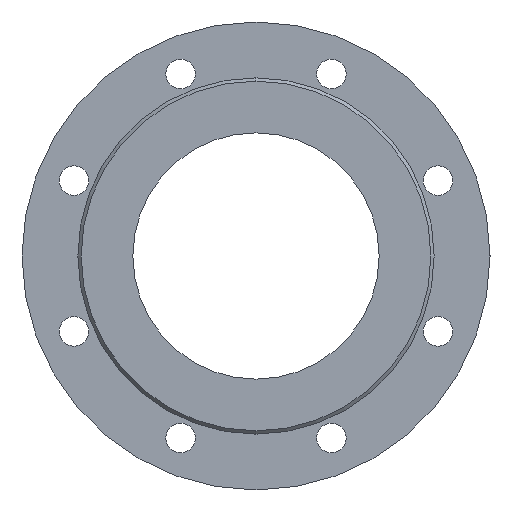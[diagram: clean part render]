
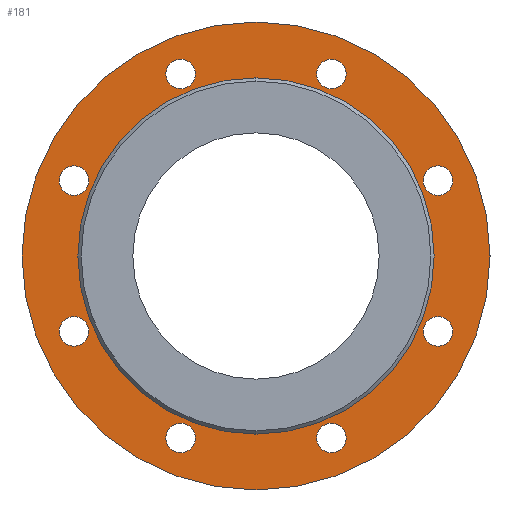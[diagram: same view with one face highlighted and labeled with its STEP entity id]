
A CAD part, left-side view. The second image highlights one B-rep face of the part: STEP entity #181.
In plain terms, the highlighted planar face has unit normal (-1, 0, 0).
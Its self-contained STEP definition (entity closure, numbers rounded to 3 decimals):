
#181=ADVANCED_FACE('',(#381,#382,#383,#384,#385,#386,#387,#388,#389,#390),#391,.F.);
#381=FACE_BOUND('',#643,.T.);
#382=FACE_BOUND('',#644,.T.);
#383=FACE_BOUND('',#645,.T.);
#384=FACE_BOUND('',#646,.T.);
#385=FACE_BOUND('',#647,.T.);
#386=FACE_BOUND('',#648,.T.);
#387=FACE_BOUND('',#649,.T.);
#388=FACE_BOUND('',#650,.T.);
#389=FACE_BOUND('',#651,.T.);
#390=FACE_OUTER_BOUND('',#652,.T.);
#391=PLANE('',#653);
#643=EDGE_LOOP('',(#1005,#1006));
#644=EDGE_LOOP('',(#1007,#1008));
#645=EDGE_LOOP('',(#1009,#1010));
#646=EDGE_LOOP('',(#1011,#1012));
#647=EDGE_LOOP('',(#1013,#1014));
#648=EDGE_LOOP('',(#1015,#1016));
#649=EDGE_LOOP('',(#1017,#1018));
#650=EDGE_LOOP('',(#1019,#1020));
#651=EDGE_LOOP('',(#1021,#1022));
#652=EDGE_LOOP('',(#1023,#1024));
#653=AXIS2_PLACEMENT_3D('',#1025,#1026,#1027);
#1005=ORIENTED_EDGE('',*,*,#1472,.T.);
#1006=ORIENTED_EDGE('',*,*,#1473,.T.);
#1007=ORIENTED_EDGE('',*,*,#1474,.T.);
#1008=ORIENTED_EDGE('',*,*,#1374,.T.);
#1009=ORIENTED_EDGE('',*,*,#1475,.T.);
#1010=ORIENTED_EDGE('',*,*,#1404,.T.);
#1011=ORIENTED_EDGE('',*,*,#1476,.T.);
#1012=ORIENTED_EDGE('',*,*,#1422,.T.);
#1013=ORIENTED_EDGE('',*,*,#1477,.T.);
#1014=ORIENTED_EDGE('',*,*,#1446,.T.);
#1015=ORIENTED_EDGE('',*,*,#1478,.T.);
#1016=ORIENTED_EDGE('',*,*,#1479,.T.);
#1017=ORIENTED_EDGE('',*,*,#1466,.T.);
#1018=ORIENTED_EDGE('',*,*,#1480,.T.);
#1019=ORIENTED_EDGE('',*,*,#1481,.T.);
#1020=ORIENTED_EDGE('',*,*,#1482,.T.);
#1021=ORIENTED_EDGE('',*,*,#1483,.T.);
#1022=ORIENTED_EDGE('',*,*,#1441,.T.);
#1023=ORIENTED_EDGE('',*,*,#1484,.F.);
#1024=ORIENTED_EDGE('',*,*,#1485,.F.);
#1025=CARTESIAN_POINT('',(2.0,0.0,0.));
#1026=DIRECTION('',(1.0,0.0,0.));
#1027=DIRECTION('',(0.,0.0,-1.0));
#1374=EDGE_CURVE('',#1615,#1613,#1616,.T.);
#1404=EDGE_CURVE('',#1661,#1659,#1662,.T.);
#1422=EDGE_CURVE('',#1691,#1689,#1692,.T.);
#1441=EDGE_CURVE('',#1724,#1722,#1725,.T.);
#1446=EDGE_CURVE('',#1733,#1731,#1734,.T.);
#1466=EDGE_CURVE('',#1761,#1765,#1767,.T.);
#1472=EDGE_CURVE('',#1773,#1774,#1775,.T.);
#1473=EDGE_CURVE('',#1774,#1773,#1776,.T.);
#1474=EDGE_CURVE('',#1613,#1615,#1777,.T.);
#1475=EDGE_CURVE('',#1659,#1661,#1778,.T.);
#1476=EDGE_CURVE('',#1689,#1691,#1779,.T.);
#1477=EDGE_CURVE('',#1731,#1733,#1780,.T.);
#1478=EDGE_CURVE('',#1781,#1782,#1783,.T.);
#1479=EDGE_CURVE('',#1782,#1781,#1784,.T.);
#1480=EDGE_CURVE('',#1765,#1761,#1785,.T.);
#1481=EDGE_CURVE('',#1786,#1787,#1788,.T.);
#1482=EDGE_CURVE('',#1787,#1786,#1789,.T.);
#1483=EDGE_CURVE('',#1722,#1724,#1790,.T.);
#1484=EDGE_CURVE('',#1791,#1792,#1793,.T.);
#1485=EDGE_CURVE('',#1792,#1791,#1794,.T.);
#1613=VERTEX_POINT('',#1946);
#1615=VERTEX_POINT('',#1949);
#1616=CIRCLE('',#1950,9.0);
#1659=VERTEX_POINT('',#2000);
#1661=VERTEX_POINT('',#2003);
#1662=CIRCLE('',#2004,9.0);
#1689=VERTEX_POINT('',#2034);
#1691=VERTEX_POINT('',#2037);
#1692=CIRCLE('',#2038,9.0);
#1722=VERTEX_POINT('',#2075);
#1724=VERTEX_POINT('',#2078);
#1725=CIRCLE('',#2079,9.0);
#1731=VERTEX_POINT('',#2086);
#1733=VERTEX_POINT('',#2089);
#1734=CIRCLE('',#2090,9.0);
#1761=VERTEX_POINT('',#2118);
#1765=VERTEX_POINT('',#2123);
#1767=CIRCLE('',#2126,9.0);
#1773=VERTEX_POINT('',#2132);
#1774=VERTEX_POINT('',#2133);
#1775=CIRCLE('',#2134,75.0);
#1776=CIRCLE('',#2135,75.0);
#1777=CIRCLE('',#2136,9.0);
#1778=CIRCLE('',#2137,9.0);
#1779=CIRCLE('',#2138,9.0);
#1780=CIRCLE('',#2139,9.0);
#1781=VERTEX_POINT('',#2140);
#1782=VERTEX_POINT('',#2141);
#1783=CIRCLE('',#2142,9.0);
#1784=CIRCLE('',#2143,9.0);
#1785=CIRCLE('',#2144,9.0);
#1786=VERTEX_POINT('',#2145);
#1787=VERTEX_POINT('',#2146);
#1788=CIRCLE('',#2147,9.0);
#1789=CIRCLE('',#2148,9.0);
#1790=CIRCLE('',#2149,9.0);
#1791=VERTEX_POINT('',#2150);
#1792=VERTEX_POINT('',#2151);
#1793=CIRCLE('',#2152,142.5);
#1794=CIRCLE('',#2153,142.5);
#1946=CARTESIAN_POINT('',(2.0,110.866,-54.922));
#1949=CARTESIAN_POINT('',(2.0,110.866,-36.922));
#1950=AXIS2_PLACEMENT_3D('',#2317,#2318,#2319);
#2000=CARTESIAN_POINT('',(2.0,45.922,-119.866));
#2003=CARTESIAN_POINT('',(2.,45.922,-101.866));
#2004=AXIS2_PLACEMENT_3D('',#2367,#2368,#2369);
#2034=CARTESIAN_POINT('',(2.0,-110.866,36.922));
#2037=CARTESIAN_POINT('',(2.0,-110.866,54.922));
#2038=AXIS2_PLACEMENT_3D('',#2401,#2402,#2403);
#2075=CARTESIAN_POINT('',(2.0,-45.922,-119.866));
#2078=CARTESIAN_POINT('',(2.,-45.922,-101.866));
#2079=AXIS2_PLACEMENT_3D('',#2430,#2431,#2432);
#2086=CARTESIAN_POINT('',(2.0,-45.922,101.866));
#2089=CARTESIAN_POINT('',(2.,-45.922,119.866));
#2090=AXIS2_PLACEMENT_3D('',#2438,#2439,#2440);
#2118=CARTESIAN_POINT('',(2.0,45.922,101.866));
#2123=CARTESIAN_POINT('',(2.,45.922,119.866));
#2126=AXIS2_PLACEMENT_3D('',#2486,#2487,#2488);
#2132=CARTESIAN_POINT('',(2.0,0.,75.0));
#2133=CARTESIAN_POINT('',(2.0,0.,-75.0));
#2134=AXIS2_PLACEMENT_3D('',#2495,#2496,#2497);
#2135=AXIS2_PLACEMENT_3D('',#2498,#2499,#2500);
#2136=AXIS2_PLACEMENT_3D('',#2501,#2502,#2503);
#2137=AXIS2_PLACEMENT_3D('',#2504,#2505,#2506);
#2138=AXIS2_PLACEMENT_3D('',#2507,#2508,#2509);
#2139=AXIS2_PLACEMENT_3D('',#2510,#2511,#2512);
#2140=CARTESIAN_POINT('',(2.0,110.866,36.922));
#2141=CARTESIAN_POINT('',(2.0,110.866,54.922));
#2142=AXIS2_PLACEMENT_3D('',#2513,#2514,#2515);
#2143=AXIS2_PLACEMENT_3D('',#2516,#2517,#2518);
#2144=AXIS2_PLACEMENT_3D('',#2519,#2520,#2521);
#2145=CARTESIAN_POINT('',(2.0,-110.866,-54.922));
#2146=CARTESIAN_POINT('',(2.0,-110.866,-36.922));
#2147=AXIS2_PLACEMENT_3D('',#2522,#2523,#2524);
#2148=AXIS2_PLACEMENT_3D('',#2525,#2526,#2527);
#2149=AXIS2_PLACEMENT_3D('',#2528,#2529,#2530);
#2150=CARTESIAN_POINT('',(2.,0.0,-142.5));
#2151=CARTESIAN_POINT('',(2.,0.,142.5));
#2152=AXIS2_PLACEMENT_3D('',#2531,#2532,#2533);
#2153=AXIS2_PLACEMENT_3D('',#2534,#2535,#2536);
#2317=CARTESIAN_POINT('',(2.0,110.866,-45.922));
#2318=DIRECTION('',(1.0,0.0,0.));
#2319=DIRECTION('',(0.,0.0,-1.0));
#2367=CARTESIAN_POINT('',(2.,45.922,-110.866));
#2368=DIRECTION('',(1.0,0.0,0.));
#2369=DIRECTION('',(0.,0.0,-1.0));
#2401=CARTESIAN_POINT('',(2.0,-110.866,45.922));
#2402=DIRECTION('',(1.0,0.0,0.));
#2403=DIRECTION('',(0.,0.0,-1.0));
#2430=CARTESIAN_POINT('',(2.,-45.922,-110.866));
#2431=DIRECTION('',(1.0,0.0,0.));
#2432=DIRECTION('',(0.,0.0,-1.0));
#2438=CARTESIAN_POINT('',(2.,-45.922,110.866));
#2439=DIRECTION('',(1.0,0.0,0.));
#2440=DIRECTION('',(0.,0.0,-1.0));
#2486=CARTESIAN_POINT('',(2.,45.922,110.866));
#2487=DIRECTION('',(1.0,0.0,0.));
#2488=DIRECTION('',(0.,0.0,-1.0));
#2495=CARTESIAN_POINT('',(2.0,0.0,0.));
#2496=DIRECTION('',(1.0,0.0,0.));
#2497=DIRECTION('',(0.,0.0,-1.0));
#2498=CARTESIAN_POINT('',(2.0,0.0,0.));
#2499=DIRECTION('',(1.0,0.0,0.));
#2500=DIRECTION('',(0.,0.0,-1.0));
#2501=CARTESIAN_POINT('',(2.0,110.866,-45.922));
#2502=DIRECTION('',(1.0,0.0,0.));
#2503=DIRECTION('',(0.,0.0,-1.0));
#2504=CARTESIAN_POINT('',(2.,45.922,-110.866));
#2505=DIRECTION('',(1.0,0.0,0.));
#2506=DIRECTION('',(0.,0.0,-1.0));
#2507=CARTESIAN_POINT('',(2.0,-110.866,45.922));
#2508=DIRECTION('',(1.0,0.0,0.));
#2509=DIRECTION('',(0.,0.0,-1.0));
#2510=CARTESIAN_POINT('',(2.,-45.922,110.866));
#2511=DIRECTION('',(1.0,0.0,0.));
#2512=DIRECTION('',(0.,0.0,-1.0));
#2513=CARTESIAN_POINT('',(2.0,110.866,45.922));
#2514=DIRECTION('',(1.0,0.0,0.));
#2515=DIRECTION('',(0.,0.0,-1.0));
#2516=CARTESIAN_POINT('',(2.0,110.866,45.922));
#2517=DIRECTION('',(1.0,0.0,0.));
#2518=DIRECTION('',(0.,0.0,-1.0));
#2519=CARTESIAN_POINT('',(2.,45.922,110.866));
#2520=DIRECTION('',(1.0,0.0,0.));
#2521=DIRECTION('',(0.,0.0,-1.0));
#2522=CARTESIAN_POINT('',(2.0,-110.866,-45.922));
#2523=DIRECTION('',(1.0,0.0,0.));
#2524=DIRECTION('',(0.,0.0,-1.0));
#2525=CARTESIAN_POINT('',(2.0,-110.866,-45.922));
#2526=DIRECTION('',(1.0,0.0,0.));
#2527=DIRECTION('',(0.,0.0,-1.0));
#2528=CARTESIAN_POINT('',(2.,-45.922,-110.866));
#2529=DIRECTION('',(1.0,0.0,0.));
#2530=DIRECTION('',(0.,0.0,-1.0));
#2531=CARTESIAN_POINT('',(2.0,0.0,0.));
#2532=DIRECTION('',(1.0,0.0,0.));
#2533=DIRECTION('',(0.,0.0,-1.0));
#2534=CARTESIAN_POINT('',(2.0,0.0,0.));
#2535=DIRECTION('',(1.0,0.0,0.));
#2536=DIRECTION('',(0.,0.0,-1.0));
